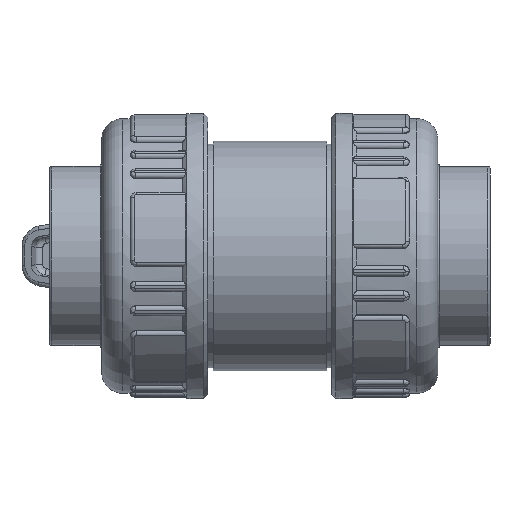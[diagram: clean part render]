
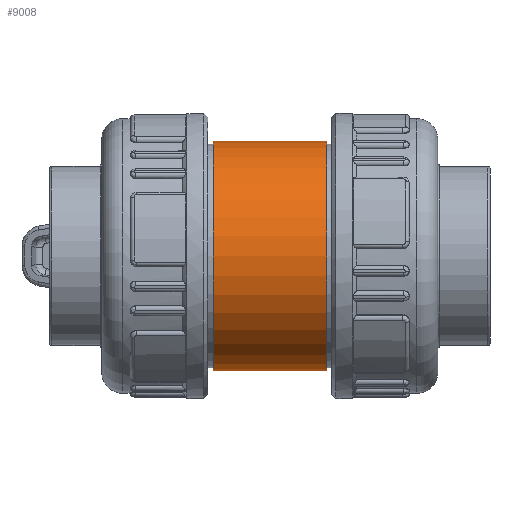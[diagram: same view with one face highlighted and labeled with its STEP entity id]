
A CAD part, left-side view. The second image highlights one B-rep face of the part: STEP entity #9008.
In plain terms, the highlighted cylindrical face has radius 27.35 mm (diameter 54.7 mm), a full revolution.
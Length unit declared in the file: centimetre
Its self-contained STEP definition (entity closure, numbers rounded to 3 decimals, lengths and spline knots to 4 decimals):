
#411=B_SPLINE_CURVE_WITH_KNOTS('',3,(#36921,#36922,#36923,#36924,#36925,
#36926,#36927,#36928,#36929,#36930,#36931,#36932,#36933,#36934,#36935,#36936,
#36937,#36938,#36939,#36940,#36941,#36942,#36943,#36944,#36945,#36946,#36947,
#36948,#36949,#36950,#36951,#36952,#36953,#36954,#36955,#36956,#36957,#36958,
#36959,#36960,#36961,#36962,#36963,#36964,#36965,#36966,#36967,#36968,#36969,
#36970),.UNSPECIFIED.,.T.,.F.,(4,2,2,2,2,2,2,2,2,2,2,2,2,2,2,2,2,2,2,2,
2,2,2,2,4),(0.,0.2366,0.4732,0.9463,1.4187,
1.6549,1.891,2.1272,2.3634,2.8357,
3.3089,3.5455,3.7821,4.0186,4.2552,
4.7284,5.2007,5.4369,5.6731,5.9093,
6.1454,6.6178,7.0909,7.3275,7.5641),
 .UNSPECIFIED.);
#1642=CYLINDRICAL_SURFACE('',#9715,2.735);
#1740=FACE_BOUND('',#2621,.T.);
#1741=FACE_BOUND('',#2622,.T.);
#2070=FACE_OUTER_BOUND('',#2620,.T.);
#2620=EDGE_LOOP('',(#6909));
#2621=EDGE_LOOP('',(#6910));
#2622=EDGE_LOOP('',(#6911));
#3121=CIRCLE('',#9716,2.735);
#3122=CIRCLE('',#9717,2.735);
#3794=VERTEX_POINT('',#36918);
#3795=VERTEX_POINT('',#36920);
#3796=VERTEX_POINT('',#36971);
#4891=EDGE_CURVE('',#3794,#3794,#3121,.T.);
#4892=EDGE_CURVE('',#3795,#3795,#411,.T.);
#4893=EDGE_CURVE('',#3796,#3796,#3122,.T.);
#6909=ORIENTED_EDGE('',*,*,#4891,.F.);
#6910=ORIENTED_EDGE('',*,*,#4892,.T.);
#6911=ORIENTED_EDGE('',*,*,#4893,.T.);
#9008=ADVANCED_FACE('',(#2070,#1740,#1741),#1642,.T.);
#9715=AXIS2_PLACEMENT_3D('',#36917,#11317,#11318);
#9716=AXIS2_PLACEMENT_3D('',#36919,#11319,#11320);
#9717=AXIS2_PLACEMENT_3D('',#36972,#11321,#11322);
#11317=DIRECTION('center_axis',(0.,-1.,0.));
#11318=DIRECTION('ref_axis',(-1.,0.,0.));
#11319=DIRECTION('center_axis',(0.,-1.,0.));
#11320=DIRECTION('ref_axis',(1.,0.,0.));
#11321=DIRECTION('center_axis',(0.,-1.,0.));
#11322=DIRECTION('ref_axis',(1.,0.,0.));
#36917=CARTESIAN_POINT('Origin',(0.,-0.005,
0.));
#36918=CARTESIAN_POINT('',(-2.735,-1.36,0.));
#36919=CARTESIAN_POINT('Origin',(0.,-1.36,0.));
#36920=CARTESIAN_POINT('',(2.4403,0.,-1.235));
#36921=CARTESIAN_POINT('Ctrl Pts',(2.4403,0.,
-1.235));
#36922=CARTESIAN_POINT('Ctrl Pts',(2.4403,-0.0789,
-1.235));
#36923=CARTESIAN_POINT('Ctrl Pts',(2.4442,-0.16,
-1.2273));
#36924=CARTESIAN_POINT('Ctrl Pts',(2.4599,-0.3205,
-1.1955));
#36925=CARTESIAN_POINT('Ctrl Pts',(2.4717,-0.3999,
-1.1713));
#36926=CARTESIAN_POINT('Ctrl Pts',(2.5153,-0.6275,
-1.0764));
#36927=CARTESIAN_POINT('Ctrl Pts',(2.5553,-0.7648,
-0.9818));
#36928=CARTESIAN_POINT('Ctrl Pts',(2.6283,-0.9816,
-0.765));
#36929=CARTESIAN_POINT('Ctrl Pts',(2.6665,-1.0763,-0.6276));
#36930=CARTESIAN_POINT('Ctrl Pts',(2.7067,-1.1714,-0.3998));
#36931=CARTESIAN_POINT('Ctrl Pts',(2.7174,-1.1955,-0.3203));
#36932=CARTESIAN_POINT('Ctrl Pts',(2.7315,-1.2274,-0.1598));
#36933=CARTESIAN_POINT('Ctrl Pts',(2.735,-1.235,-0.0787));
#36934=CARTESIAN_POINT('Ctrl Pts',(2.735,-1.235,0.0787));
#36935=CARTESIAN_POINT('Ctrl Pts',(2.7315,-1.2274,0.1598));
#36936=CARTESIAN_POINT('Ctrl Pts',(2.7174,-1.1955,0.3203));
#36937=CARTESIAN_POINT('Ctrl Pts',(2.7067,-1.1714,0.3998));
#36938=CARTESIAN_POINT('Ctrl Pts',(2.6665,-1.0763,0.6276));
#36939=CARTESIAN_POINT('Ctrl Pts',(2.6283,-0.9816,
0.765));
#36940=CARTESIAN_POINT('Ctrl Pts',(2.5553,-0.7648,
0.9818));
#36941=CARTESIAN_POINT('Ctrl Pts',(2.5153,-0.6275,
1.0764));
#36942=CARTESIAN_POINT('Ctrl Pts',(2.4717,-0.3999,
1.1713));
#36943=CARTESIAN_POINT('Ctrl Pts',(2.4599,-0.3205,
1.1955));
#36944=CARTESIAN_POINT('Ctrl Pts',(2.4442,-0.16,
1.2273));
#36945=CARTESIAN_POINT('Ctrl Pts',(2.4403,-0.0789,
1.235));
#36946=CARTESIAN_POINT('Ctrl Pts',(2.4403,0.0789,1.235));
#36947=CARTESIAN_POINT('Ctrl Pts',(2.4442,0.16,1.2273));
#36948=CARTESIAN_POINT('Ctrl Pts',(2.4599,0.3205,1.1955));
#36949=CARTESIAN_POINT('Ctrl Pts',(2.4717,0.3999,1.1713));
#36950=CARTESIAN_POINT('Ctrl Pts',(2.5153,0.6275,1.0764));
#36951=CARTESIAN_POINT('Ctrl Pts',(2.5553,0.7648,0.9818));
#36952=CARTESIAN_POINT('Ctrl Pts',(2.6283,0.9816,0.765));
#36953=CARTESIAN_POINT('Ctrl Pts',(2.6665,1.0763,0.6276));
#36954=CARTESIAN_POINT('Ctrl Pts',(2.7067,1.1714,0.3998));
#36955=CARTESIAN_POINT('Ctrl Pts',(2.7174,1.1955,0.3203));
#36956=CARTESIAN_POINT('Ctrl Pts',(2.7315,1.2274,0.1598));
#36957=CARTESIAN_POINT('Ctrl Pts',(2.735,1.235,0.0787));
#36958=CARTESIAN_POINT('Ctrl Pts',(2.735,1.235,-0.0787));
#36959=CARTESIAN_POINT('Ctrl Pts',(2.7315,1.2274,-0.1598));
#36960=CARTESIAN_POINT('Ctrl Pts',(2.7174,1.1955,-0.3203));
#36961=CARTESIAN_POINT('Ctrl Pts',(2.7067,1.1714,-0.3998));
#36962=CARTESIAN_POINT('Ctrl Pts',(2.6665,1.0763,-0.6276));
#36963=CARTESIAN_POINT('Ctrl Pts',(2.6283,0.9816,-0.765));
#36964=CARTESIAN_POINT('Ctrl Pts',(2.5553,0.7648,-0.9818));
#36965=CARTESIAN_POINT('Ctrl Pts',(2.5153,0.6275,-1.0764));
#36966=CARTESIAN_POINT('Ctrl Pts',(2.4717,0.3999,-1.1713));
#36967=CARTESIAN_POINT('Ctrl Pts',(2.4599,0.3205,-1.1955));
#36968=CARTESIAN_POINT('Ctrl Pts',(2.4442,0.16,-1.2273));
#36969=CARTESIAN_POINT('Ctrl Pts',(2.4403,0.0789,
-1.235));
#36970=CARTESIAN_POINT('Ctrl Pts',(2.4403,0.,
-1.235));
#36971=CARTESIAN_POINT('',(-2.735,1.35,0.));
#36972=CARTESIAN_POINT('Origin',(0.,1.35,0.));
